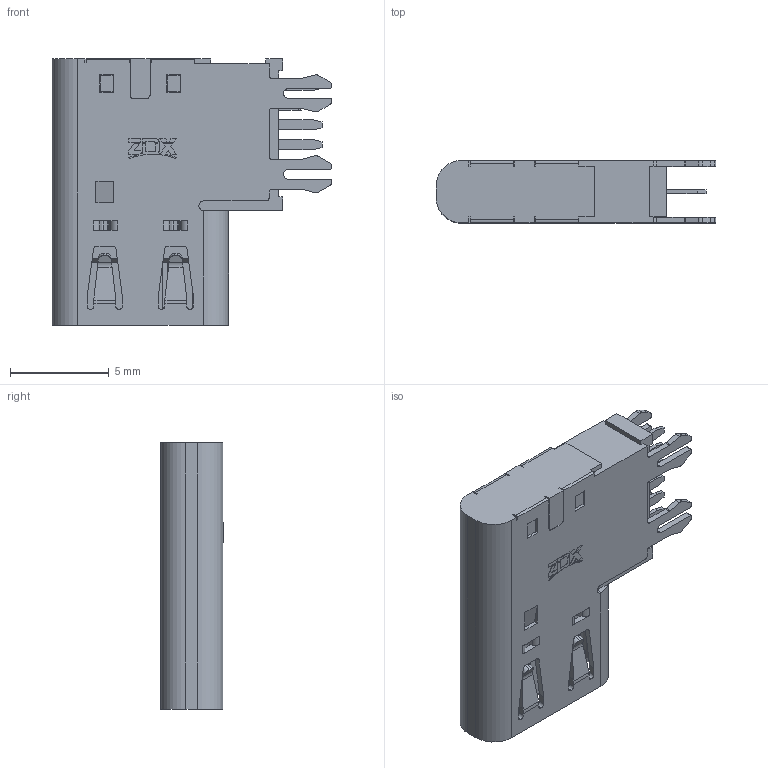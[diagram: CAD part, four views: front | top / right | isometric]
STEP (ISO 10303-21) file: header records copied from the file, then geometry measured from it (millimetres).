
FILE_DESCRIPTION((''),'2;1');
FILE_NAME('ASM0002_ASM','2024-01-27T',('WYH'),(''),'PRO/ENGINEER BY PARAMETRIC TECHNOLOGY CORPORATION, 2013040','PRO/ENGINEER BY PARAMETRIC TECHNOLOGY CORPORATION, 2013040','');
FILE_SCHEMA(('CONFIG_CONTROL_DESIGN'));
Length unit declared in the file: millimetre
Products named in the file (1): ASM0002_ASM
Bounding box: 14.18 x 3.18 x 13.5 mm (x, y, z)
Volume: 349.7 mm3; surface area: 663.2 mm2
Topology: 1 solids, 1 shells, 696 faces, 1973 edges, 1298 vertices
Faces by surface type: plane 500, cylinder 188, cone 8
Entity records: 22608 total; most frequent: CARTESIAN_POINT 4256, ORIENTED_EDGE 3946, DIRECTION 3657, EDGE_CURVE 1973, VECTOR 1553, LINE 1553, VERTEX_POINT 1298, AXIS2_PLACEMENT_3D 1052
